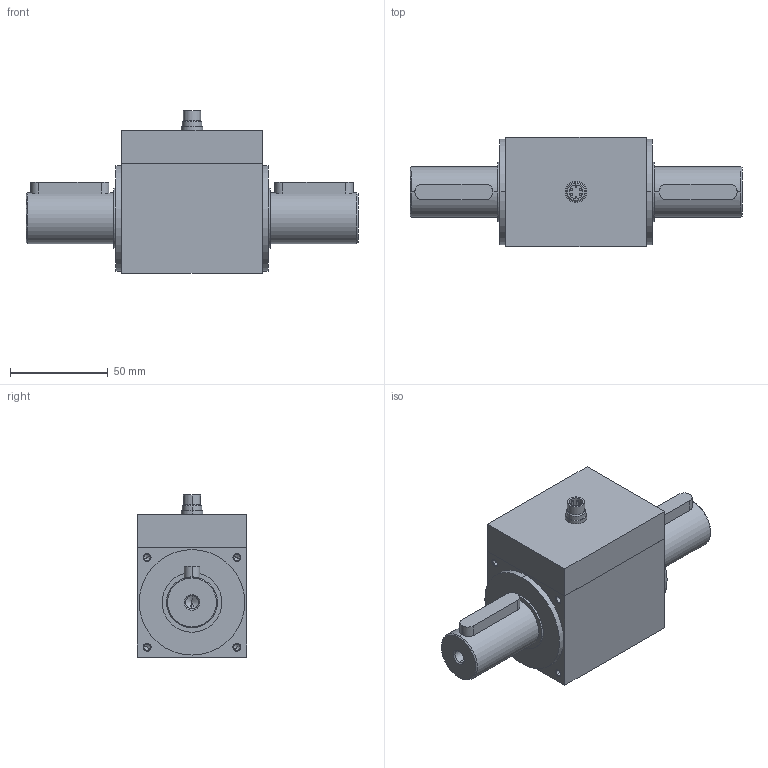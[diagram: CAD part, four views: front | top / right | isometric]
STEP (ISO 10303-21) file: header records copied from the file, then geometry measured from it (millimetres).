
FILE_DESCRIPTION(('STEP AP203'),'1');
FILE_NAME('C:/TPO v2/SharedFS/Outgoing/burster_8651-5200_6wrzs57e6a21zyx3bjmyjfqzx.stp','2013-08-28T19:26:30',('TraceParts'),('TraceParts S.A.'),'XStep 1.0',' ',' ');
FILE_SCHEMA(('CONFIG_CONTROL_DESIGN'));
Length unit declared in the file: millimetre
Products named in the file (1): 1
Bounding box: 170 x 56 x 82.99 mm (x, y, z)
Volume: 358885.5 mm3; surface area: 38879.4 mm2
Topology: 1 solids, 1 shells, 205 faces, 454 edges, 266 vertices
Faces by surface type: cylinder 96, cone 62, plane 47
Entity records: 5628 total; most frequent: DIRECTION 1046, CARTESIAN_POINT 1034, ORIENTED_EDGE 852, EDGE_CURVE 426, AXIS2_PLACEMENT_3D 422, VERTEX_POINT 266, EDGE_LOOP 248, CIRCLE 216
